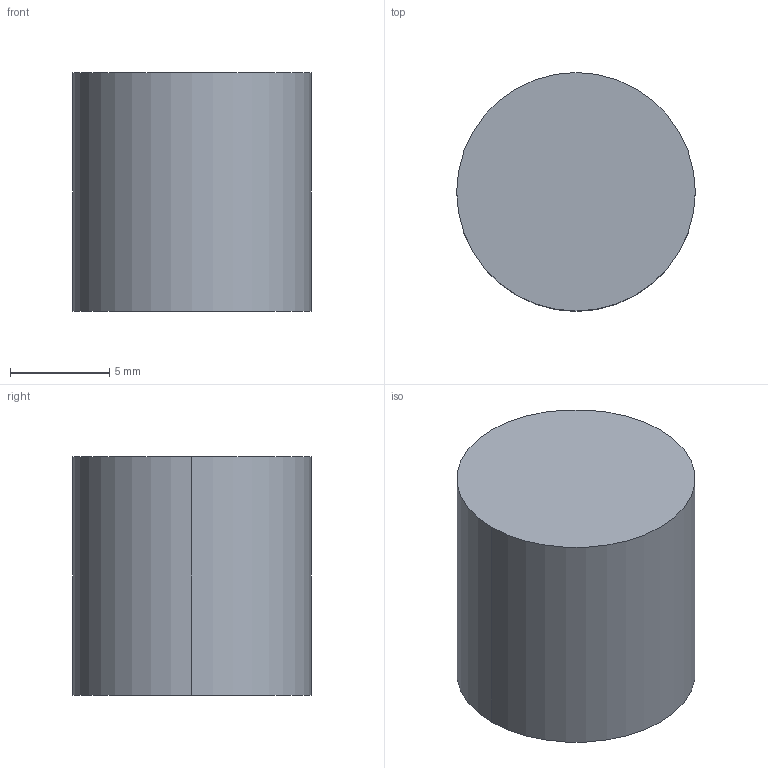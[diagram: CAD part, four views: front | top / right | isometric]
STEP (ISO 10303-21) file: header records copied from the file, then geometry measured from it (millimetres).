
FILE_DESCRIPTION (( 'STEP AP203' ), '1' );
FILE_NAME ('drp-122.STEP', '2021-10-21T07:52:46', ( '' ), ( '' ), 'SwSTEP 2.0', 'SolidWorks 2020', '' );
FILE_SCHEMA (( 'CONFIG_CONTROL_DESIGN' ));
Length unit declared in the file: millimetre
Products named in the file (1): drp-122
Bounding box: 12 x 12 x 12 mm (x, y, z)
Volume: 1231.5 mm3; surface area: 779.1 mm2
Topology: 1 solids, 1 shells, 7 faces, 12 edges, 8 vertices
Faces by surface type: cylinder 4, plane 3
Entity records: 251 total; most frequent: DIRECTION 36, CARTESIAN_POINT 28, ORIENTED_EDGE 24, AXIS2_PLACEMENT_3D 16, EDGE_CURVE 12, CIRCLE 8, VERTEX_POINT 8, PERSON_AND_ORGANIZATION 8
